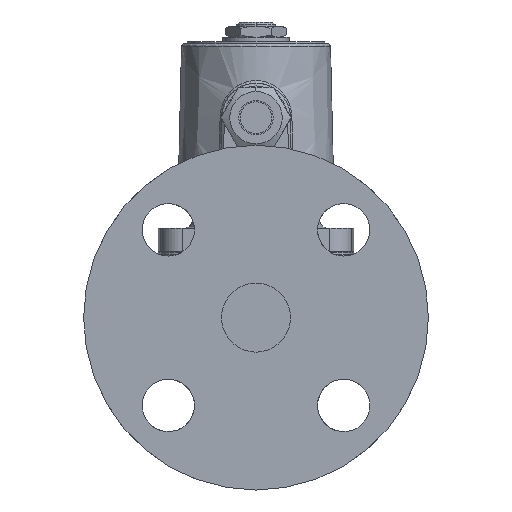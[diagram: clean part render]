
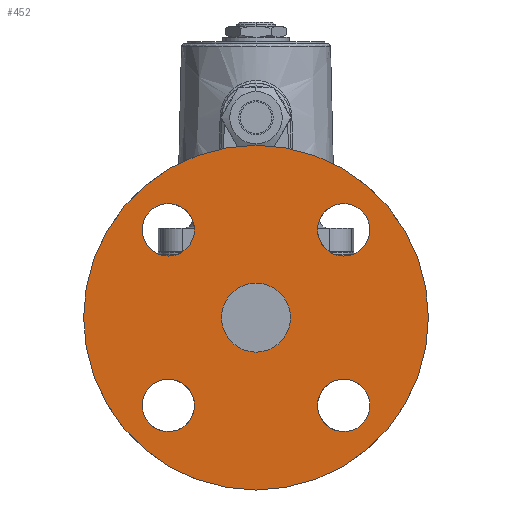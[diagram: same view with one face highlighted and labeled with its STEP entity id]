
A CAD part, left-side view. The second image highlights one B-rep face of the part: STEP entity #452.
In plain terms, the highlighted planar face has unit normal (-1, 0, 0).
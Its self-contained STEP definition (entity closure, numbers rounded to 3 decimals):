
#452=ADVANCED_FACE('',(#3227,#3228,#3229,#3230,#3231,#3232),#3226,.F.);
#3226=PLANE('',#6600);
#3227=FACE_OUTER_BOUND('',#6601,.T.);
#3228=FACE_BOUND('',#6602,.T.);
#3229=FACE_BOUND('',#6603,.T.);
#3230=FACE_BOUND('',#6604,.T.);
#3231=FACE_BOUND('',#6605,.T.);
#3232=FACE_BOUND('',#6606,.T.);
#6597=CARTESIAN_POINT('',(-72.5,-118.253,72.5));
#6598=DIRECTION('',(1.,0.,0.));
#6599=DIRECTION('',(0.,0.,-1.));
#6600=AXIS2_PLACEMENT_3D('',#6597,#6598,#6599);
#6601=EDGE_LOOP('',(#8690,#8691));
#6602=EDGE_LOOP('',(#8692,#8693,#8694));
#6603=EDGE_LOOP('',(#8695,#8696,#8697));
#6604=EDGE_LOOP('',(#8698,#8699,#8700));
#6605=EDGE_LOOP('',(#8701,#8702));
#6606=EDGE_LOOP('',(#8703,#8704,#8705));
#8690=ORIENTED_EDGE('',*,*,#9846,.T.);
#8691=ORIENTED_EDGE('',*,*,#9847,.T.);
#8692=ORIENTED_EDGE('',*,*,#9848,.F.);
#8693=ORIENTED_EDGE('',*,*,#9849,.F.);
#8694=ORIENTED_EDGE('',*,*,#9850,.F.);
#8695=ORIENTED_EDGE('',*,*,#9851,.F.);
#8696=ORIENTED_EDGE('',*,*,#9852,.F.);
#8697=ORIENTED_EDGE('',*,*,#9853,.F.);
#8698=ORIENTED_EDGE('',*,*,#9854,.F.);
#8699=ORIENTED_EDGE('',*,*,#9855,.F.);
#8700=ORIENTED_EDGE('',*,*,#9856,.F.);
#8701=ORIENTED_EDGE('',*,*,#9857,.F.);
#8702=ORIENTED_EDGE('',*,*,#9858,.F.);
#8703=ORIENTED_EDGE('',*,*,#9859,.F.);
#8704=ORIENTED_EDGE('',*,*,#9860,.F.);
#8705=ORIENTED_EDGE('',*,*,#9861,.F.);
#9846=EDGE_CURVE('',#14760,#14761,#14762,.T.);
#9847=EDGE_CURVE('',#14761,#14760,#14768,.T.);
#9848=EDGE_CURVE('',#14774,#14775,#14776,.T.);
#9849=EDGE_CURVE('',#14782,#14774,#14783,.T.);
#9850=EDGE_CURVE('',#14775,#14782,#14789,.T.);
#9851=EDGE_CURVE('',#14795,#14796,#14797,.T.);
#9852=EDGE_CURVE('',#14803,#14795,#14804,.T.);
#9853=EDGE_CURVE('',#14796,#14803,#14810,.T.);
#9854=EDGE_CURVE('',#14816,#14817,#14818,.T.);
#9855=EDGE_CURVE('',#14824,#14816,#14825,.T.);
#9856=EDGE_CURVE('',#14817,#14824,#14831,.T.);
#9857=EDGE_CURVE('',#14837,#14838,#14839,.T.);
#9858=EDGE_CURVE('',#14838,#14837,#14845,.T.);
#9859=EDGE_CURVE('',#14851,#14852,#14853,.T.);
#9860=EDGE_CURVE('',#14859,#14851,#14860,.T.);
#9861=EDGE_CURVE('',#14852,#14859,#14866,.T.);
#14760=VERTEX_POINT('',#19820);
#14761=VERTEX_POINT('',#19821);
#14762=CIRCLE('',#19825,62.5);
#14768=CIRCLE('',#19829,62.5);
#14774=VERTEX_POINT('',#19830);
#14775=VERTEX_POINT('',#19831);
#14776=CIRCLE('',#19835,9.5);
#14782=VERTEX_POINT('',#19836);
#14783=CIRCLE('',#19840,9.5);
#14789=CIRCLE('',#19844,9.5);
#14795=VERTEX_POINT('',#19845);
#14796=VERTEX_POINT('',#19846);
#14797=CIRCLE('',#19850,9.5);
#14803=VERTEX_POINT('',#19851);
#14804=CIRCLE('',#19855,9.5);
#14810=CIRCLE('',#19859,9.5);
#14816=VERTEX_POINT('',#19860);
#14817=VERTEX_POINT('',#19861);
#14818=CIRCLE('',#19865,9.5);
#14824=VERTEX_POINT('',#19866);
#14825=CIRCLE('',#19870,9.5);
#14831=CIRCLE('',#19874,9.5);
#14837=VERTEX_POINT('',#19875);
#14838=VERTEX_POINT('',#19876);
#14839=CIRCLE('',#19880,12.5);
#14845=CIRCLE('',#19884,12.5);
#14851=VERTEX_POINT('',#19885);
#14852=VERTEX_POINT('',#19886);
#14853=CIRCLE('',#19890,9.5);
#14859=VERTEX_POINT('',#19891);
#14860=CIRCLE('',#19895,9.5);
#14866=CIRCLE('',#19899,9.5);
#19820=CARTESIAN_POINT('',(-72.5,0.,62.5));
#19821=CARTESIAN_POINT('',(-72.5,0.,-62.5));
#19822=CARTESIAN_POINT('',(-72.5,0.,0.));
#19823=DIRECTION('',(-1.,0.,0.));
#19824=DIRECTION('',(0.,0.,1.));
#19825=AXIS2_PLACEMENT_3D('',#19822,#19823,#19824);
#19826=CARTESIAN_POINT('',(-72.5,0.,0.));
#19827=DIRECTION('',(-1.,0.,0.));
#19828=DIRECTION('',(0.,0.,1.));
#19829=AXIS2_PLACEMENT_3D('',#19826,#19827,#19828);
#19830=CARTESIAN_POINT('',(-72.5,31.82,22.32));
#19831=CARTESIAN_POINT('',(-72.5,22.32,31.82));
#19832=CARTESIAN_POINT('',(-72.5,31.82,31.82));
#19833=DIRECTION('',(-1.,0.,0.));
#19834=DIRECTION('',(0.,-1.,0.));
#19835=AXIS2_PLACEMENT_3D('',#19832,#19833,#19834);
#19836=CARTESIAN_POINT('',(-72.5,31.821,41.32));
#19837=CARTESIAN_POINT('',(-72.5,31.82,31.82));
#19838=DIRECTION('',(-1.,0.,0.));
#19839=DIRECTION('',(0.,-1.,0.));
#19840=AXIS2_PLACEMENT_3D('',#19837,#19838,#19839);
#19841=CARTESIAN_POINT('',(-72.5,31.82,31.82));
#19842=DIRECTION('',(-1.,0.,0.));
#19843=DIRECTION('',(0.,-1.,0.));
#19844=AXIS2_PLACEMENT_3D('',#19841,#19842,#19843);
#19845=CARTESIAN_POINT('',(-72.5,31.82,-41.32));
#19846=CARTESIAN_POINT('',(-72.5,22.32,-31.82));
#19847=CARTESIAN_POINT('',(-72.5,31.82,-31.82));
#19848=DIRECTION('',(-1.,0.,0.));
#19849=DIRECTION('',(0.,-1.,0.));
#19850=AXIS2_PLACEMENT_3D('',#19847,#19848,#19849);
#19851=CARTESIAN_POINT('',(-72.5,31.821,-22.32));
#19852=CARTESIAN_POINT('',(-72.5,31.82,-31.82));
#19853=DIRECTION('',(-1.,0.,0.));
#19854=DIRECTION('',(0.,-1.,0.));
#19855=AXIS2_PLACEMENT_3D('',#19852,#19853,#19854);
#19856=CARTESIAN_POINT('',(-72.5,31.82,-31.82));
#19857=DIRECTION('',(-1.,0.,0.));
#19858=DIRECTION('',(0.,-1.,0.));
#19859=AXIS2_PLACEMENT_3D('',#19856,#19857,#19858);
#19860=CARTESIAN_POINT('',(-72.5,-31.82,-41.32));
#19861=CARTESIAN_POINT('',(-72.5,-41.32,-31.82));
#19862=CARTESIAN_POINT('',(-72.5,-31.82,-31.82));
#19863=DIRECTION('',(-1.,0.,0.));
#19864=DIRECTION('',(0.,-1.,0.));
#19865=AXIS2_PLACEMENT_3D('',#19862,#19863,#19864);
#19866=CARTESIAN_POINT('',(-72.5,-31.819,-22.32));
#19867=CARTESIAN_POINT('',(-72.5,-31.82,-31.82));
#19868=DIRECTION('',(-1.,0.,0.));
#19869=DIRECTION('',(0.,-1.,0.));
#19870=AXIS2_PLACEMENT_3D('',#19867,#19868,#19869);
#19871=CARTESIAN_POINT('',(-72.5,-31.82,-31.82));
#19872=DIRECTION('',(-1.,0.,0.));
#19873=DIRECTION('',(0.,-1.,0.));
#19874=AXIS2_PLACEMENT_3D('',#19871,#19872,#19873);
#19875=CARTESIAN_POINT('',(-72.5,0.,-12.5));
#19876=CARTESIAN_POINT('',(-72.5,0.,12.5));
#19877=CARTESIAN_POINT('',(-72.5,0.,0.));
#19878=DIRECTION('',(-1.,0.,0.));
#19879=DIRECTION('',(0.,0.,1.));
#19880=AXIS2_PLACEMENT_3D('',#19877,#19878,#19879);
#19881=CARTESIAN_POINT('',(-72.5,0.,0.));
#19882=DIRECTION('',(-1.,0.,0.));
#19883=DIRECTION('',(0.,0.,1.));
#19884=AXIS2_PLACEMENT_3D('',#19881,#19882,#19883);
#19885=CARTESIAN_POINT('',(-72.5,-31.82,22.32));
#19886=CARTESIAN_POINT('',(-72.5,-41.32,31.82));
#19887=CARTESIAN_POINT('',(-72.5,-31.82,31.82));
#19888=DIRECTION('',(-1.,0.,0.));
#19889=DIRECTION('',(0.,-1.,0.));
#19890=AXIS2_PLACEMENT_3D('',#19887,#19888,#19889);
#19891=CARTESIAN_POINT('',(-72.5,-31.819,41.32));
#19892=CARTESIAN_POINT('',(-72.5,-31.82,31.82));
#19893=DIRECTION('',(-1.,0.,0.));
#19894=DIRECTION('',(0.,-1.,0.));
#19895=AXIS2_PLACEMENT_3D('',#19892,#19893,#19894);
#19896=CARTESIAN_POINT('',(-72.5,-31.82,31.82));
#19897=DIRECTION('',(-1.,0.,0.));
#19898=DIRECTION('',(0.,-1.,0.));
#19899=AXIS2_PLACEMENT_3D('',#19896,#19897,#19898);
